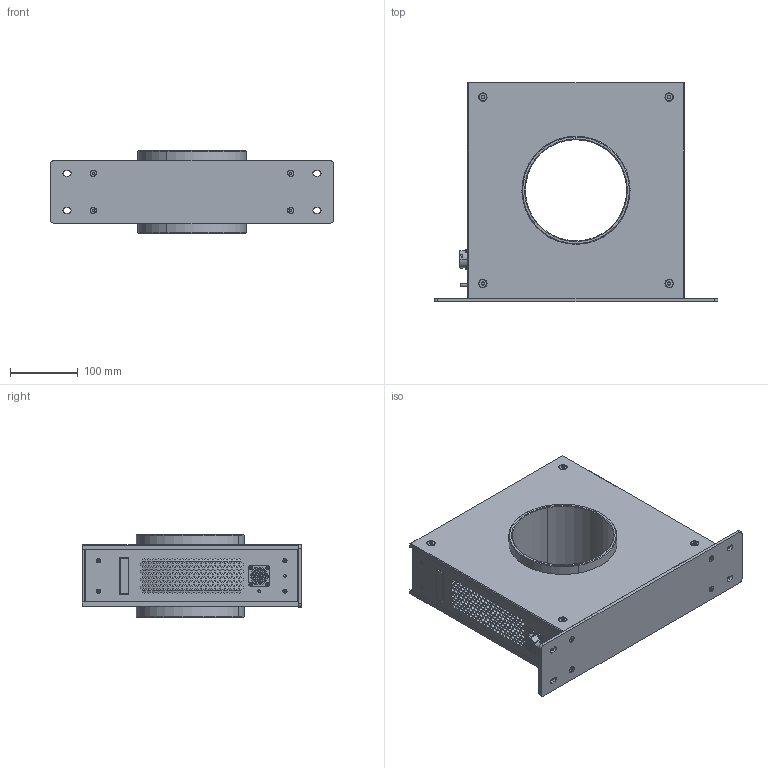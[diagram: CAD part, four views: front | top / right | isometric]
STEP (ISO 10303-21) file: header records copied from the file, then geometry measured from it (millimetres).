
FILE_DESCRIPTION (( 'STEP AP214' ), '1' );
FILE_NAME ('1221100002.STEP', '2020-08-18T14:08:48', ( '' ), ( '' ), 'SwSTEP 2.0', 'SolidWorks 2019', '' );
FILE_SCHEMA (( 'AUTOMOTIVE_DESIGN' ));
Length unit declared in the file: millimetre
Products named in the file (1): 1221100002
Bounding box: 420 x 325 x 122 mm (x, y, z)
Surface area: 688220.8 mm2 (no closed solid volume)
Topology: 0 solids, 49 shells, 4009 faces, 12303 edges, 8316 vertices
Faces by surface type: plane 3611, cylinder 316, cone 69, torus 10, sphere 3
Entity records: 177616 total; most frequent: CARTESIAN_POINT 25209, DIRECTION 21375, ORIENTED_EDGE 20276, EDGE_CURVE 12298, LINE 11081, VECTOR 11081, VERTEX_POINT 8316, AXIS2_PLACEMENT_3D 5147
